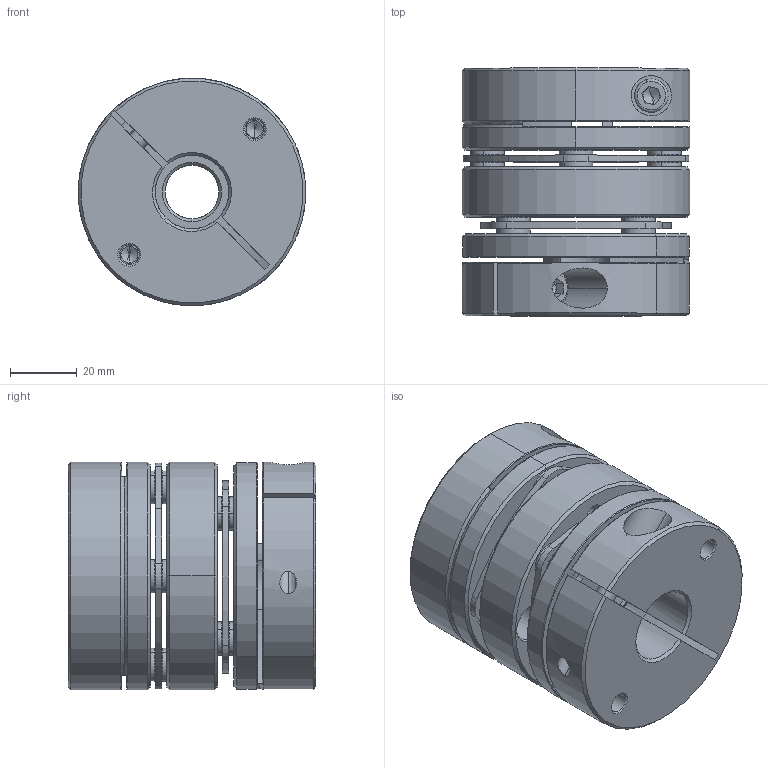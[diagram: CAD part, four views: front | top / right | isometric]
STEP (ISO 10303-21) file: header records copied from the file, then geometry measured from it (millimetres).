
FILE_DESCRIPTION (( 'STEP AP203' ), '1' );
FILE_NAME ('LD2-D68-16-22.STEP', '2021-10-26T08:17:32', ( '' ), ( '' ), 'SwSTEP 2.0', 'SolidWorks 2018', '' );
FILE_SCHEMA (( 'CONFIG_CONTROL_DESIGN' ));
Length unit declared in the file: millimetre
Products named in the file (2): 錨璃102^LD2-D68; LD2-D68-16-22
Assembly tree (1 placements, depth 2):
  LD2-D68-16-22
    錨璃102^LD2-D68
Bounding box: 68 x 74 x 68 mm (x, y, z)
Volume: 190816.9 mm3; surface area: 64781.4 mm2
Topology: 1 solids, 27 shells, 734 faces, 1712 edges, 1042 vertices
Faces by surface type: cylinder 256, cone 226, plane 222, torus 30
Entity records: 21554 total; most frequent: DIRECTION 4004, CARTESIAN_POINT 3937, ORIENTED_EDGE 3376, EDGE_CURVE 1688, AXIS2_PLACEMENT_3D 1625, VERTEX_POINT 1042, CIRCLE 887, EDGE_LOOP 870
